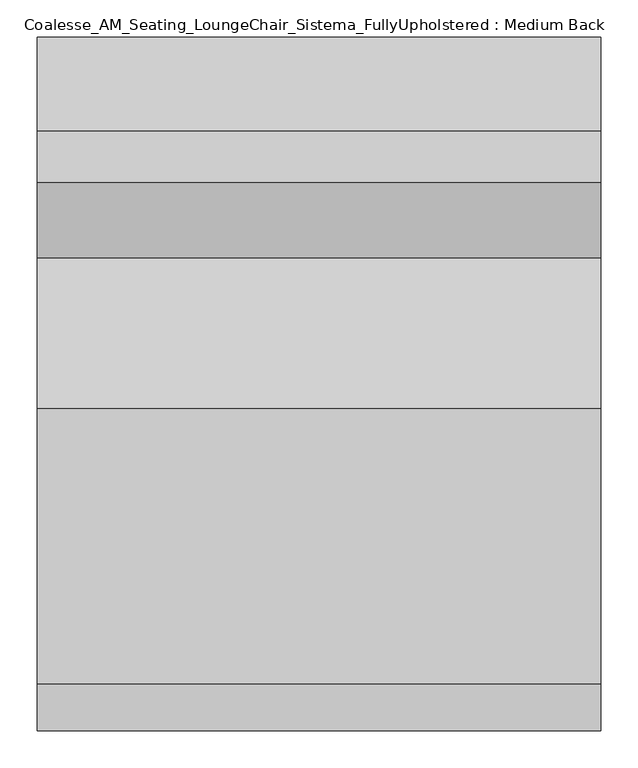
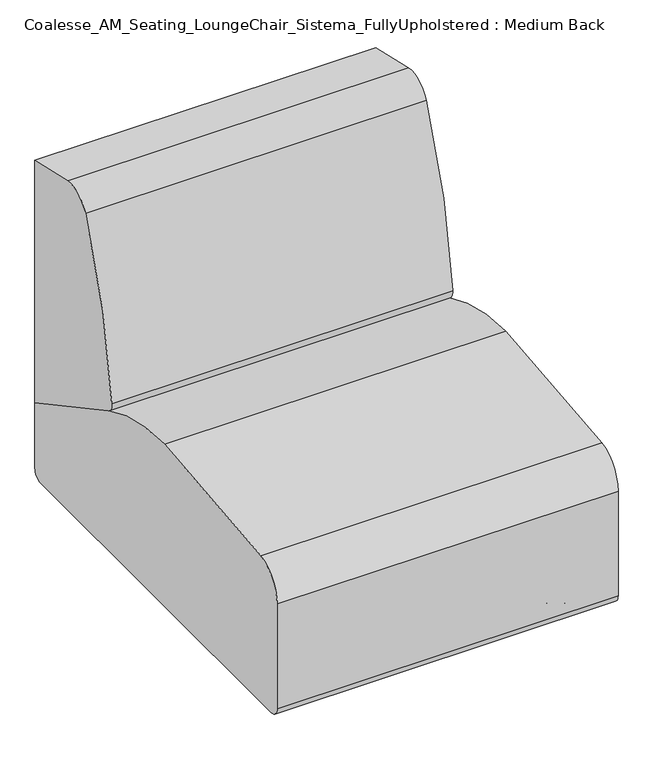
"""IFC4 building model written with IfcOpenShell, lengths in millimetres: furniture geometry, Coalesse_AM_Seating_LoungeChair_Sistema_FullyUpholstered : Medium Back."""

import ifcopenshell
import ifcopenshell.guid

model = None  # the IFC model being written
_history = None  # IfcOwnerHistory: only IFC2X3 demands one
_inside = {}  # id of a spatial element -> (the spatial element, [elements in it])
_under = {}  # id of a project, library or spatial element -> (it, [spatial elements below it])
_declared = {}  # id of a project -> (the project, [libraries it declares])
_typed = {}  # id of a type object -> (the type object, [elements of that type])
_made_of = {}  # id of a material, layer set ... -> (it, [elements and type objects made of it])


def new_model(schema):
    """Start an empty IFC model of exactly this schema.

    Asked for "IFC4X3", IfcOpenShell would pick the latest addendum, in which some entities
    have other attributes; the version numbers below select the first issue.
    IFC2X3 requires an IfcOwnerHistory on every rooted entity: one is made here for all.
    """
    global model, _history
    if schema == "IFC4X3":
        model = ifcopenshell.file(schema_version=(4, 3, 0, 0))
    else:
        model = ifcopenshell.file(schema=schema)
    _inside.clear()
    _under.clear()
    _declared.clear()
    _typed.clear()
    _made_of.clear()
    _history = None
    if model.schema == "IFC2X3":
        org = make("IfcOrganization", Name="unknown")
        user = make(
            "IfcPersonAndOrganization",
            ThePerson=make("IfcPerson", FamilyName="unknown"),
            TheOrganization=org,
        )
        app = make(
            "IfcApplication",
            ApplicationDeveloper=org,
            Version="unknown",
            ApplicationFullName="unknown",
            ApplicationIdentifier="unknown",
        )
        _history = make(
            "IfcOwnerHistory",
            OwningUser=user,
            OwningApplication=app,
            ChangeAction="ADDED",
            CreationDate=0,
        )
    return model


def make(cls, **values):
    """One entity of the class cls with the attributes given. An attribute that is None is left unset."""
    return model.create_entity(
        cls, **{name: value for name, value in values.items() if value is not None}
    )


def rooted(cls, **values):
    """An entity with a GlobalId (a new one), such as an element, a storey or a relation."""
    return make(cls, GlobalId=ifcopenshell.guid.new(), OwnerHistory=_history, **values)


def si_unit(unit_type, name, prefix=None):
    """IfcSIUnit, for example si_unit("LENGTHUNIT", "METRE", prefix="MILLI")."""
    return make("IfcSIUnit", UnitType=unit_type, Prefix=prefix, Name=name)


def assignment(units):
    """IfcUnitAssignment: the units of a project."""
    return None if units is None else make("IfcUnitAssignment", Units=units)


def point(xyz):
    """IfcCartesianPoint."""
    return None if xyz is None else make("IfcCartesianPoint", Coordinates=xyz)


def direction(xyz):
    """IfcDirection."""
    return None if xyz is None else make("IfcDirection", DirectionRatios=xyz)


def frame(location, z_axis=None, x_axis=None):
    """IfcAxis2Placement3D, a coordinate frame: its origin and axes. An axis left out is left unset."""
    return make(
        "IfcAxis2Placement3D",
        Location=point(location),
        Axis=direction(z_axis),
        RefDirection=direction(x_axis),
    )


def frame_2d(location, x_axis=None):
    """IfcAxis2Placement2D, a coordinate frame in the plane: its origin and x axis."""
    return make(
        "IfcAxis2Placement2D", Location=point(location), RefDirection=direction(x_axis)
    )


def origin():
    """The frame at (0, 0, 0) with its axes left unset."""
    return frame((0.0, 0.0, 0.0))


def place(relative_to, where):
    """IfcLocalPlacement: puts the frame where relative to a parent placement (None: the world)."""
    return make(
        "IfcLocalPlacement", PlacementRelTo=relative_to, RelativePlacement=where
    )


def context(
    kind, dimensions, precision=None, world=None, true_north=None, identifier=None
):
    """IfcGeometricRepresentationContext, for example the 3D "Model" context."""
    return make(
        "IfcGeometricRepresentationContext",
        ContextIdentifier=identifier,
        ContextType=kind,
        CoordinateSpaceDimension=dimensions,
        Precision=precision,
        WorldCoordinateSystem=world,
        TrueNorth=true_north,
    )


def project(units=None, contexts=None):
    """IfcProject with its units and contexts."""
    return rooted(
        "IfcProject",
        Name="project",
        RepresentationContexts=contexts,
        UnitsInContext=assignment(units),
    )


def spatial(cls, under=None, at=None, **own):
    """A site, building, storey or space (cls), placed at a placement, below another one or the project."""
    s = rooted(cls, ObjectPlacement=at, **own)
    if under is not None:
        _under.setdefault(under.id(), (under, []))[1].append(s)
    return s


def polyline(points):
    """IfcPolyline through the points."""
    return make("IfcPolyline", Points=[point(p) for p in points])


def circle_curve(where, radius):
    """IfcCircle in the frame where."""
    return make("IfcCircle", Position=where, Radius=radius)


def ellipse_curve(where, semi_axis1, semi_axis2):
    """IfcEllipse in the frame where."""
    return make(
        "IfcEllipse", Position=where, SemiAxis1=semi_axis1, SemiAxis2=semi_axis2
    )


def trimmed(basis, trim1, trim2, sense, master):
    """IfcTrimmedCurve: the piece of a basis curve between two trims."""
    return make(
        "IfcTrimmedCurve",
        BasisCurve=basis,
        Trim1=trim1,
        Trim2=trim2,
        SenseAgreement=sense,
        MasterRepresentation=master,
    )


def segment(curve, same_sense, transition):
    """IfcCompositeCurveSegment."""
    return make(
        "IfcCompositeCurveSegment",
        Transition=transition,
        SameSense=same_sense,
        ParentCurve=curve,
    )


def composite_curve(segments, self_intersect=None):
    """IfcCompositeCurve: segments joined end to end."""
    return make("IfcCompositeCurve", Segments=segments, SelfIntersect=self_intersect)


def outline(outer, holes=None, kind="AREA"):
    """IfcArbitraryClosedProfileDef: a profile drawn as a closed curve; with holes, ...WithVoids."""
    if holes is None:
        return make("IfcArbitraryClosedProfileDef", ProfileType=kind, OuterCurve=outer)
    return make(
        "IfcArbitraryProfileDefWithVoids",
        ProfileType=kind,
        OuterCurve=outer,
        InnerCurves=holes,
    )


def extrude(swept, where, along, depth):
    """IfcExtrudedAreaSolid: the profile swept, set in the frame where, extruded along a direction by depth."""
    return make(
        "IfcExtrudedAreaSolid",
        SweptArea=swept,
        Position=where,
        ExtrudedDirection=direction(along),
        Depth=depth,
    )


def shape(context_of_items, identifier, shape_type, items):
    """IfcShapeRepresentation: the items that make up one representation, for example the "Body"."""
    return make(
        "IfcShapeRepresentation",
        ContextOfItems=context_of_items,
        RepresentationIdentifier=identifier,
        RepresentationType=shape_type,
        Items=items,
    )


def source(mapping_origin, context_of_items, identifier, shape_type, items):
    """IfcRepresentationMap: a shape defined once, which mapped items show again and again."""
    return make(
        "IfcRepresentationMap",
        MappingOrigin=mapping_origin,
        MappedRepresentation=shape(context_of_items, identifier, shape_type, items),
    )


def transform(
    local_origin,
    x_axis=None,
    y_axis=None,
    z_axis=None,
    scale=None,
    scale2=None,
    scale3=None,
    uniform=True,
):
    """IfcCartesianTransformationOperator3D, or its non-uniform kind. x_axis, y_axis, z_axis: its Axis1, 2, 3."""
    if uniform:
        return make(
            "IfcCartesianTransformationOperator3D",
            Axis1=direction(x_axis),
            Axis2=direction(y_axis),
            LocalOrigin=point(local_origin),
            Scale=scale,
            Axis3=direction(z_axis),
        )
    return make(
        "IfcCartesianTransformationOperator3DnonUniform",
        Axis1=direction(x_axis),
        Axis2=direction(y_axis),
        LocalOrigin=point(local_origin),
        Scale=scale,
        Axis3=direction(z_axis),
        Scale2=scale2,
        Scale3=scale3,
    )


def mapped(mapping_source, mapping_target):
    """IfcMappedItem: shows the shape of a source again, moved by a transform."""
    return make(
        "IfcMappedItem", MappingSource=mapping_source, MappingTarget=mapping_target
    )


def made_of(thing, what):
    """Note that an element or type object is made of a material, layer set ...; save() writes the relation."""
    if what is not None:
        _made_of.setdefault(what.id(), (what, []))[1].append(thing)
    return thing


def element(
    cls,
    number,
    at=None,
    inside=None,
    cuts=None,
    type_object=None,
    material=None,
    context=None,
    identifier="Body",
    shape_type=None,
    held_by="IfcProductDefinitionShape",
    body=None,
    shapes=None,
    **own,
):
    """One element of the class cls, such as IfcWall. Its Tag is "e" and its number.

    at: its placement. inside: the storey or other place that contains it. cuts: it is an
    opening in that element (IfcRelVoidsElement). A single representation is given by context,
    identifier, shape_type and body (its items); several are given by shapes. held_by: the class
    of the entity that holds the representations. save() writes the other relations.
    """
    e = rooted(cls, Tag="e%d" % number, ObjectPlacement=at, **own)
    if body is not None:
        shapes = [shape(context, identifier, shape_type, body)]
    if shapes is not None:
        e.Representation = make(held_by, Representations=shapes)
    if inside is not None:
        _inside.setdefault(inside.id(), (inside, []))[1].append(e)
    if cuts is not None:
        rooted(
            "IfcRelVoidsElement", RelatingBuildingElement=cuts, RelatedOpeningElement=e
        )
    if type_object is not None:
        _typed.setdefault(type_object.id(), (type_object, []))[1].append(e)
    return made_of(e, material)


def aggregate(whole, parts):
    """IfcRelAggregates: a whole, such as a stair, and the parts it consists of."""
    return rooted("IfcRelAggregates", RelatingObject=whole, RelatedObjects=parts)


def save(model, path):
    """Write the relations noted so far, then the file.

    IfcRelAggregates (storeys below a building ...), IfcRelContainedInSpatialStructure (elements
    in a storey), IfcRelDefinesByType, IfcRelAssociatesMaterial and IfcRelDeclares: one each for
    every whole, place, type object, material and project.
    """
    for whole, parts in _under.values():
        aggregate(whole, parts)
    for where, things in _inside.values():
        rooted(
            "IfcRelContainedInSpatialStructure",
            RelatedElements=things,
            RelatingStructure=where,
        )
    for kind, things in _typed.values():
        rooted("IfcRelDefinesByType", RelatedObjects=things, RelatingType=kind)
    for what, things in _made_of.values():
        rooted("IfcRelAssociatesMaterial", RelatedObjects=things, RelatingMaterial=what)
    for by, libraries in _declared.values():
        rooted("IfcRelDeclares", RelatingContext=by, RelatedDefinitions=libraries)
    model.write(path)


def plane_surface(at):
    """IfcPlane: the flat surface through the origin of the frame at, square to its z axis."""
    return make("IfcPlane", Position=at)


def cylinder_surface(at, radius):
    """IfcCylindricalSurface: all points at the distance radius from the z axis of the frame at."""
    return make("IfcCylindricalSurface", Position=at, Radius=radius)


def revolved_surface(curve, axis_point, axis_direction):
    """IfcSurfaceOfRevolution: the curve turned about the line through axis_point along axis_direction."""
    return make(
        "IfcSurfaceOfRevolution",
        SweptCurve=make("IfcArbitraryOpenProfileDef", ProfileType="CURVE", Curve=curve),
        AxisPosition=make("IfcAxis1Placement", Location=point(axis_point), Axis=direction(axis_direction)),
    )


def advanced_brep(points, edges, surfaces, faces):
    """IfcAdvancedBrep: a solid bounded by faces that lie on surfaces and meet in shared edges.

    An edge is (start, end): straight between two places in points (the first is 0);
    or (start, end, curve); or (start, end, curve, False) where it runs against its curve.
    A face is (place in surfaces, loops), or (place, loops, False) where it looks against
    its surface's normal. A loop lists edges by number (the first is 1), with a minus sign
    where the edge is run from its end to its start. The first loop is the outer one.
    """
    corners = [point(p) for p in points]
    vertices = [make("IfcVertexPoint", VertexGeometry=c) for c in corners]
    made = []
    for start, end, *more in edges:
        made.append(
            make(
                "IfcEdgeCurve",
                EdgeStart=vertices[start],
                EdgeEnd=vertices[end],
                EdgeGeometry=more[0] if more else make("IfcPolyline", Points=[corners[start], corners[end]]),
                SameSense=more[1] if len(more) > 1 else True,
            )
        )
    hull = []
    for where, loops, *sense in faces:
        bounds = []
        for j, loop in enumerate(loops):
            ring = [make("IfcOrientedEdge", EdgeElement=made[abs(k) - 1], Orientation=k > 0) for k in loop]
            bounds.append(
                make(
                    "IfcFaceOuterBound" if j == 0 else "IfcFaceBound",
                    Bound=make("IfcEdgeLoop", EdgeList=ring),
                    Orientation=True,
                )
            )
        hull.append(make("IfcAdvancedFace", Bounds=bounds, FaceSurface=surfaces[where], SameSense=sense[0] if sense else True))
    return make("IfcAdvancedBrep", Outer=make("IfcClosedShell", CfsFaces=hull))


def coalesse_am_seating_loungechair_sistema_fullyupholstered_694a9448(model_context):
    return source(origin(), model_context, "Body", "SolidModel", [
        advanced_brep(
        [(269.1276038, -379.5141881, 32.0111214), (305.4012134, -379.5141881, 32.0111214), (305.4012134, -379.5141881, 16.5557542), (269.1276038, -379.5141881, 16.5557542), (306.6948939, -379.5141881, 14.0167632), (267.8339233, -379.5141881, 14.0167632), (311.0668802, -379.5141881, 10.8824382), (263.4619371, -379.5141881, 10.8824382), (312.2530965, -379.5141881, 8.4680454), (262.2757207, -379.5141881, 8.4680454), (312.2530965, -379.5141881, 3.1081764), (262.2757207, -379.5141881, 3.1081764), (308.6567219, -379.5141881, 0.0), (265.8720953, -379.5141881, 0.0), (287.2644086, -379.5141881, 0.0), (287.2644086, -379.5141881, 34.4679682), (294.3791876, -379.5141881, 34.4679682), (280.1496296, -379.5141881, 34.4679682), (294.3791876, -379.5141881, 32.0111214), (280.1496296, -379.5141881, 32.0111214)],
        [
            (0, 1, circle_curve(frame((287.2644086, -379.5141881, 32.0111214), z_axis=(0.0, 0.0, -1.0), x_axis=(1.0, 0.0, 0.0)), 18.1368048)),
            (1, 2),
            (2, 3, circle_curve(frame((287.2644086, -379.5141881, 16.5557542), z_axis=(0.0, 0.0, 1.0), x_axis=(1.0, 0.0, 0.0)), 18.1368048)),
            (3, 0),
            (1, 0, circle_curve(frame((287.2644086, -379.5141881, 32.0111214), z_axis=(0.0, 0.0, -1.0), x_axis=(1.0, 0.0, 0.0)), 18.1368048)),
            (3, 2, circle_curve(frame((287.2644086, -379.5141881, 16.5557542), z_axis=(0.0, 0.0, 1.0), x_axis=(1.0, 0.0, 0.0)), 18.1368048)),
            (2, 4),
            (4, 5, circle_curve(frame((287.2644086, -379.5141881, 14.0167632), z_axis=(0.0, 0.0, 1.0), x_axis=(1.0, 0.0, 0.0)), 19.4304853)),
            (5, 3),
            (5, 4, circle_curve(frame((287.2644086, -379.5141881, 14.0167632), z_axis=(0.0, 0.0, 1.0), x_axis=(1.0, 0.0, 0.0)), 19.4304853)),
            (4, 6, circle_curve(frame((264.7129236, -379.5141881, -49.1591113), z_axis=(0.0, 1.0, 0.0), x_axis=(-1.0, 0.0, 0.0)), 75.8529957)),
            (6, 7, circle_curve(frame((287.2644086, -379.5141881, 10.8824382), z_axis=(0.0, 0.0, 1.0), x_axis=(1.0, 0.0, 0.0)), 23.8024715)),
            (7, 5, circle_curve(frame((309.8158936, -379.5141881, -49.1591113), z_axis=(0.0, 1.0, 0.0), x_axis=(1.0, 0.0, 0.0)), 75.8529957)),
            (7, 6, circle_curve(frame((287.2644086, -379.5141881, 10.8824382), z_axis=(0.0, 0.0, 1.0), x_axis=(1.0, 0.0, 0.0)), 23.8024715)),
            (6, 8, circle_curve(frame((309.2028933, -379.5141881, 8.4680454), z_axis=(0.0, 1.0, 0.0), x_axis=(-1.0, 0.0, 0.0)), 3.0502032)),
            (8, 9, circle_curve(frame((287.2644086, -379.5141881, 8.4680454), z_axis=(0.0, 0.0, 1.0), x_axis=(1.0, 0.0, 0.0)), 24.9886879)),
            (9, 7, circle_curve(frame((265.3259239, -379.5141881, 8.4680454), z_axis=(0.0, 1.0, 0.0), x_axis=(1.0, 0.0, 0.0)), 3.0502032)),
            (9, 8, circle_curve(frame((287.2644086, -379.5141881, 8.4680454), z_axis=(0.0, 0.0, 1.0), x_axis=(1.0, 0.0, 0.0)), 24.9886879)),
            (8, 10),
            (10, 11, circle_curve(frame((287.2644086, -379.5141881, 3.1081764), z_axis=(0.0, 0.0, 1.0), x_axis=(1.0, 0.0, 0.0)), 24.9886879)),
            (11, 9),
            (11, 10, circle_curve(frame((287.2644086, -379.5141881, 3.1081764), z_axis=(0.0, 0.0, 1.0), x_axis=(1.0, 0.0, 0.0)), 24.9886879)),
            (10, 12, circle_curve(frame((308.6567219, -379.5141881, 3.634715), z_axis=(0.0, 1.0, 0.0), x_axis=(-1.0, 0.0, 0.0)), 3.634715)),
            (12, 13, circle_curve(frame((287.2644086, -379.5141881, 0.0), z_axis=(0.0, 0.0, 1.0), x_axis=(1.0, 0.0, 0.0)), 21.3923133)),
            (13, 11, circle_curve(frame((265.8720953, -379.5141881, 3.634715), z_axis=(0.0, 1.0, 0.0), x_axis=(1.0, 0.0, 0.0)), 3.634715)),
            (13, 12, circle_curve(frame((287.2644086, -379.5141881, 0.0), z_axis=(0.0, 0.0, 1.0), x_axis=(1.0, 0.0, 0.0)), 21.3923133)),
            (12, 14),
            (14, 13),
            (15, 16),
            (16, 17, circle_curve(frame((287.2644086, -379.5141881, 34.4679682), z_axis=(0.0, 0.0, 1.0), x_axis=(1.0, 0.0, 0.0)), 7.114779)),
            (17, 15),
            (17, 16, circle_curve(frame((287.2644086, -379.5141881, 34.4679682), z_axis=(0.0, 0.0, 1.0), x_axis=(1.0, 0.0, 0.0)), 7.114779)),
            (16, 18),
            (18, 19, circle_curve(frame((287.2644086, -379.5141881, 32.0111214), z_axis=(0.0, 0.0, 1.0), x_axis=(1.0, 0.0, 0.0)), 7.114779)),
            (19, 17),
            (19, 18, circle_curve(frame((287.2644086, -379.5141881, 32.0111214), z_axis=(0.0, 0.0, 1.0), x_axis=(1.0, 0.0, 0.0)), 7.114779)),
            (18, 1),
            (0, 19),
        ],
        [
            cylinder_surface(frame((287.2644086, -379.5141881, 22.0491407), z_axis=(0.0, 0.0, 1.0), x_axis=(1.0, 0.0, 0.0)), 18.1368048),
            revolved_surface(polyline([(306.6948939, -379.5141881, 14.0167632), (305.4012134, -379.5141881, 16.5557542)]), (287.2644086, -379.5141881, 22.0491407), (0.0, 0.0, 1.0)),
            revolved_surface(trimmed(ellipse_curve(frame((264.7129236, -379.5141881, -49.1591113), z_axis=(0.0, -1.0, 0.0), x_axis=(-1.0, 0.0, 0.0)), 75.8529957, 75.8529957), [point((311.0668802, -379.5141881, 10.8824382))], [point((306.6948939, -379.5141881, 14.0167632))], True, "CARTESIAN"), (287.2644086, -379.5141881, 22.0491407), (0.0, 0.0, 1.0)),
            revolved_surface(trimmed(ellipse_curve(frame((309.2028933, -379.5141881, 8.4680454), z_axis=(0.0, -1.0, 0.0), x_axis=(-1.0, 0.0, 0.0)), 3.0502032, 3.0502032), [point((312.2530965, -379.5141881, 8.4680454))], [point((311.0668802, -379.5141881, 10.8824382))], True, "CARTESIAN"), (287.2644086, -379.5141881, 22.0491407), (0.0, 0.0, 1.0)),
            cylinder_surface(frame((287.2644086, -379.5141881, 22.0491407), z_axis=(0.0, 0.0, 1.0), x_axis=(1.0, 0.0, 0.0)), 24.9886879),
            revolved_surface(trimmed(ellipse_curve(frame((308.6567219, -379.5141881, 3.634715), z_axis=(0.0, -1.0, 0.0), x_axis=(-1.0, 0.0, 0.0)), 3.634715, 3.634715), [point((308.6567219, -379.5141881, 0.0))], [point((312.2530965, -379.5141881, 3.1081764))], True, "CARTESIAN"), (287.2644086, -379.5141881, 22.0491407), (0.0, 0.0, 1.0)),
            plane_surface(frame((287.2644086, -379.5141881, 0.0), z_axis=(0.0, 0.0, -1.0), x_axis=(1.0, 0.0, 0.0))),
            plane_surface(frame((287.2644086, -379.5141881, 34.4679682), z_axis=(0.0, 0.0, 1.0), x_axis=(1.0, 0.0, 0.0))),
            cylinder_surface(frame((287.2644086, -379.5141881, 22.0491407), z_axis=(0.0, 0.0, 1.0), x_axis=(1.0, 0.0, 0.0)), 7.114779),
            plane_surface(frame((287.2644086, -379.5141881, 32.0111214), z_axis=(0.0, 0.0, 1.0), x_axis=(1.0, 0.0, 0.0))),
        ],
        [
            (0, [[1, 2, 3, 4]]),
            (0, [[5, -4, 6, -2]]),
            (1, [[-3, 7, 8, 9]]),
            (1, [[-6, -9, 10, -7]]),
            (2, [[-8, 11, 12, 13]]),
            (2, [[-10, -13, 14, -11]]),
            (3, [[-12, 15, 16, 17]]),
            (3, [[-14, -17, 18, -15]]),
            (4, [[-16, 19, 20, 21]]),
            (4, [[-18, -21, 22, -19]]),
            (5, [[-20, 23, 24, 25]]),
            (5, [[-22, -25, 26, -23]]),
            (6, [[-24, 27, 28]]),
            (6, [[-26, -28, -27]]),
            (7, [[29, 30, 31]]),
            (7, [[-31, 32, -29]]),
            (8, [[-30, 33, 34, 35]]),
            (8, [[-32, -35, 36, -33]]),
            (9, [[-34, 37, -1, 38]]),
            (9, [[-36, -38, -5, -37]]),
        ],
    ),
        advanced_brep(
        [(-269.1276038, -379.5141881, 16.5557542), (-305.4012134, -379.5141881, 16.5557542), (-305.4012134, -379.5141881, 32.0111214), (-269.1276038, -379.5141881, 32.0111214), (-267.8339233, -379.5141881, 14.0167632), (-306.6948939, -379.5141881, 14.0167632), (-263.4619371, -379.5141881, 10.8824382), (-311.0668802, -379.5141881, 10.8824382), (-262.2757207, -379.5141881, 8.4680454), (-312.2530965, -379.5141881, 8.4680454), (-262.2757207, -379.5141881, 3.1081764), (-312.2530965, -379.5141881, 3.1081764), (-265.8720953, -379.5141881, 0.0), (-308.6567219, -379.5141881, 0.0), (-287.2644086, -379.5141881, 0.0), (-280.1496296, -379.5141881, 34.4679682), (-294.3791876, -379.5141881, 34.4679682), (-287.2644086, -379.5141881, 34.4679682), (-280.1496296, -379.5141881, 32.0111214), (-294.3791876, -379.5141881, 32.0111214)],
        [
            (0, 1, circle_curve(frame((-287.2644086, -379.5141881, 16.5557542), z_axis=(0.0, 0.0, 1.0), x_axis=(-1.0, 0.0, 0.0)), 18.1368048)),
            (1, 2),
            (2, 3, circle_curve(frame((-287.2644086, -379.5141881, 32.0111214), z_axis=(0.0, 0.0, -1.0), x_axis=(-1.0, 0.0, 0.0)), 18.1368048)),
            (3, 0),
            (1, 0, circle_curve(frame((-287.2644086, -379.5141881, 16.5557542), z_axis=(0.0, 0.0, 1.0), x_axis=(-1.0, 0.0, 0.0)), 18.1368048)),
            (3, 2, circle_curve(frame((-287.2644086, -379.5141881, 32.0111214), z_axis=(0.0, 0.0, -1.0), x_axis=(-1.0, 0.0, 0.0)), 18.1368048)),
            (4, 5, circle_curve(frame((-287.2644086, -379.5141881, 14.0167632), z_axis=(0.0, 0.0, 1.0), x_axis=(-1.0, 0.0, 0.0)), 19.4304853)),
            (5, 1),
            (0, 4),
            (5, 4, circle_curve(frame((-287.2644086, -379.5141881, 14.0167632), z_axis=(0.0, 0.0, 1.0), x_axis=(-1.0, 0.0, 0.0)), 19.4304853)),
            (6, 7, circle_curve(frame((-287.2644086, -379.5141881, 10.8824382), z_axis=(0.0, 0.0, 1.0), x_axis=(-1.0, 0.0, 0.0)), 23.8024715)),
            (7, 5, circle_curve(frame((-264.7129236, -379.5141881, -49.1591113), z_axis=(0.0, 1.0, 0.0), x_axis=(1.0, 0.0, 0.0)), 75.8529957)),
            (4, 6, circle_curve(frame((-309.8158936, -379.5141881, -49.1591113), z_axis=(0.0, 1.0, 0.0), x_axis=(-1.0, 0.0, 0.0)), 75.8529957)),
            (7, 6, circle_curve(frame((-287.2644086, -379.5141881, 10.8824382), z_axis=(0.0, 0.0, 1.0), x_axis=(-1.0, 0.0, 0.0)), 23.8024715)),
            (8, 9, circle_curve(frame((-287.2644086, -379.5141881, 8.4680454), z_axis=(0.0, 0.0, 1.0), x_axis=(-1.0, 0.0, 0.0)), 24.9886879)),
            (9, 7, circle_curve(frame((-309.2028933, -379.5141881, 8.4680454), z_axis=(0.0, 1.0, 0.0), x_axis=(1.0, 0.0, 0.0)), 3.0502032)),
            (6, 8, circle_curve(frame((-265.3259239, -379.5141881, 8.4680454), z_axis=(0.0, 1.0, 0.0), x_axis=(-1.0, 0.0, 0.0)), 3.0502032)),
            (9, 8, circle_curve(frame((-287.2644086, -379.5141881, 8.4680454), z_axis=(0.0, 0.0, 1.0), x_axis=(-1.0, 0.0, 0.0)), 24.9886879)),
            (10, 11, circle_curve(frame((-287.2644086, -379.5141881, 3.1081764), z_axis=(0.0, 0.0, 1.0), x_axis=(-1.0, 0.0, 0.0)), 24.9886879)),
            (11, 9),
            (8, 10),
            (11, 10, circle_curve(frame((-287.2644086, -379.5141881, 3.1081764), z_axis=(0.0, 0.0, 1.0), x_axis=(-1.0, 0.0, 0.0)), 24.9886879)),
            (12, 13, circle_curve(frame((-287.2644086, -379.5141881, 0.0), z_axis=(0.0, 0.0, 1.0), x_axis=(-1.0, 0.0, 0.0)), 21.3923133)),
            (13, 11, circle_curve(frame((-308.6567219, -379.5141881, 3.634715), z_axis=(0.0, 1.0, 0.0), x_axis=(1.0, 0.0, 0.0)), 3.634715)),
            (10, 12, circle_curve(frame((-265.8720953, -379.5141881, 3.634715), z_axis=(0.0, 1.0, 0.0), x_axis=(-1.0, 0.0, 0.0)), 3.634715)),
            (13, 12, circle_curve(frame((-287.2644086, -379.5141881, 0.0), z_axis=(0.0, 0.0, 1.0), x_axis=(-1.0, 0.0, 0.0)), 21.3923133)),
            (14, 13),
            (12, 14),
            (15, 16, circle_curve(frame((-287.2644086, -379.5141881, 34.4679682), z_axis=(0.0, 0.0, 1.0), x_axis=(-1.0, 0.0, 0.0)), 7.114779)),
            (16, 17),
            (17, 15),
            (16, 15, circle_curve(frame((-287.2644086, -379.5141881, 34.4679682), z_axis=(0.0, 0.0, 1.0), x_axis=(-1.0, 0.0, 0.0)), 7.114779)),
            (18, 19, circle_curve(frame((-287.2644086, -379.5141881, 32.0111214), z_axis=(0.0, 0.0, 1.0), x_axis=(-1.0, 0.0, 0.0)), 7.114779)),
            (19, 16),
            (15, 18),
            (19, 18, circle_curve(frame((-287.2644086, -379.5141881, 32.0111214), z_axis=(0.0, 0.0, 1.0), x_axis=(-1.0, 0.0, 0.0)), 7.114779)),
            (2, 19),
            (18, 3),
        ],
        [
            cylinder_surface(frame((-287.2644086, -379.5141881, 22.0491407), z_axis=(0.0, 0.0, -1.0), x_axis=(-1.0, 0.0, 0.0)), 18.1368048),
            revolved_surface(polyline([(-305.4012134, -379.5141881, 16.5557542), (-306.6948939, -379.5141881, 14.0167632)]), (-287.2644086, -379.5141881, 22.0491407), (0.0, 0.0, -1.0)),
            revolved_surface(trimmed(ellipse_curve(frame((-264.7129236, -379.5141881, -49.1591113), z_axis=(0.0, -1.0, 0.0), x_axis=(1.0, 0.0, 0.0)), 75.8529957, 75.8529957), [point((-306.6948939, -379.5141881, 14.0167632))], [point((-311.0668802, -379.5141881, 10.8824382))], True, "CARTESIAN"), (-287.2644086, -379.5141881, 22.0491407), (0.0, 0.0, -1.0)),
            revolved_surface(trimmed(ellipse_curve(frame((-309.2028933, -379.5141881, 8.4680454), z_axis=(0.0, -1.0, 0.0), x_axis=(1.0, 0.0, 0.0)), 3.0502032, 3.0502032), [point((-311.0668802, -379.5141881, 10.8824382))], [point((-312.2530965, -379.5141881, 8.4680454))], True, "CARTESIAN"), (-287.2644086, -379.5141881, 22.0491407), (0.0, 0.0, -1.0)),
            cylinder_surface(frame((-287.2644086, -379.5141881, 22.0491407), z_axis=(0.0, 0.0, -1.0), x_axis=(-1.0, 0.0, 0.0)), 24.9886879),
            revolved_surface(trimmed(ellipse_curve(frame((-308.6567219, -379.5141881, 3.634715), z_axis=(0.0, -1.0, 0.0), x_axis=(1.0, 0.0, 0.0)), 3.634715, 3.634715), [point((-312.2530965, -379.5141881, 3.1081764))], [point((-308.6567219, -379.5141881, 0.0))], True, "CARTESIAN"), (-287.2644086, -379.5141881, 22.0491407), (0.0, 0.0, -1.0)),
            plane_surface(frame((-287.2644086, -379.5141881, 0.0), z_axis=(0.0, 0.0, -1.0), x_axis=(-1.0, 0.0, 0.0))),
            plane_surface(frame((-287.2644086, -379.5141881, 34.4679682), z_axis=(0.0, 0.0, 1.0), x_axis=(-1.0, 0.0, 0.0))),
            cylinder_surface(frame((-287.2644086, -379.5141881, 22.0491407), z_axis=(0.0, 0.0, -1.0), x_axis=(-1.0, 0.0, 0.0)), 7.114779),
            plane_surface(frame((-287.2644086, -379.5141881, 32.0111214), z_axis=(0.0, 0.0, 1.0), x_axis=(-1.0, 0.0, 0.0))),
        ],
        [
            (0, [[1, 2, 3, 4]]),
            (0, [[5, -4, 6, -2]]),
            (1, [[7, 8, -1, 9]]),
            (1, [[10, -9, -5, -8]]),
            (2, [[11, 12, -7, 13]]),
            (2, [[14, -13, -10, -12]]),
            (3, [[15, 16, -11, 17]]),
            (3, [[18, -17, -14, -16]]),
            (4, [[19, 20, -15, 21]]),
            (4, [[22, -21, -18, -20]]),
            (5, [[23, 24, -19, 25]]),
            (5, [[26, -25, -22, -24]]),
            (6, [[27, -23, 28]]),
            (6, [[-28, -26, -27]]),
            (7, [[29, 30, 31]]),
            (7, [[32, -31, -30]]),
            (8, [[33, 34, -29, 35]]),
            (8, [[36, -35, -32, -34]]),
            (9, [[-3, 37, -33, 38]]),
            (9, [[-6, -38, -36, -37]]),
        ],
    ),
        extrude(outline(composite_curve([segment(polyline([(464.6438301, 774.6651718), (464.6438301, 208.8788212), (183.8457951, 360.6719742)]), True, "CONTINUOUS"), segment(trimmed(circle_curve(frame_2d((195.9245701, 383.0161724)), 25.4), [point((183.8457951, 360.6719742))], [point((170.6161698, 385.1713698))], False, "CARTESIAN"), True, "CONTINUOUS"), segment(trimmed(circle_curve(frame_2d((1327.5544182, 286.6495247)), 1161.1256023), [point((170.6161698, 385.1713698))], [point((271.1088001, 768.4537592))], False, "CARTESIAN"), True, "CONTINUOUS"), segment(trimmed(circle_curve(frame_2d((326.5730192, 743.158661)), 60.96), [point((271.1088001, 768.4537592))], [point((339.9143278, 802.6408523))], False, "CARTESIAN"), True, "CONTINUOUS"), segment(polyline([(339.9143278, 802.6408523), (464.6438301, 774.6651718)]), True, "CONTINUOUS")], self_intersect=False)), frame((-374.8034773, 0.0, 0.0), z_axis=(1.0, 0.0, 0.0), x_axis=(0.0, 1.0, 0.0)), (0.0, 0.0, 1.0), 752.2863161),
        extrude(outline(composite_curve([segment(trimmed(circle_curve(frame_2d((-438.9184381, 56.7777814)), 22.352), [point((-438.9184381, 34.4257814))], [point((-461.2704381, 56.7777814))], False, "CARTESIAN"), True, "CONTINUOUS"), segment(polyline([(-461.2704381, 56.7777814), (-461.2704381, 301.4421993)]), True, "CONTINUOUS"), segment(trimmed(circle_curve(frame_2d((-385.0704381, 301.4421993)), 76.2), [point((-461.2704381, 301.4421993))], [point((-398.9277015, 376.3716077))], False, "CARTESIAN"), True, "CONTINUOUS"), segment(trimmed(circle_curve(frame_2d((2.2103559, -1792.6740646)), 2205.8265729), [point((-398.9277015, 376.3716077))], [point((-31.1968175, 412.8995185))], False, "CARTESIAN"), True, "CONTINUOUS"), segment(trimmed(circle_curve(frame_2d((-24.5128424, -28.3829182)), 441.333054), [point((-31.1968175, 412.8995185))], [point((184.5757008, 360.2774035))], False, "CARTESIAN"), True, "CONTINUOUS"), segment(polyline([(184.5757008, 360.2774035), (464.6438301, 208.8788212), (464.6438301, 56.7429806)]), True, "CONTINUOUS"), segment(trimmed(circle_curve(frame_2d((442.3266309, 56.7429806)), 22.3171991), [point((464.6438301, 56.7429806))], [point((442.3266309, 34.4257814))], False, "CARTESIAN"), True, "CONTINUOUS"), segment(polyline([(442.3266309, 34.4257814), (-438.9184381, 34.4257814)]), True, "CONTINUOUS")], self_intersect=False)), frame((-374.8034773, 0.0, 0.0), z_axis=(1.0, 0.0, 0.0), x_axis=(0.0, 1.0, 0.0)), (0.0, 0.0, 1.0), 752.2863161),
    ])


if __name__ == "__main__":
    model = new_model("IFC4")
    model_context = context("Model", 3, world=origin())
    ifc_project = project(units=[si_unit("LENGTHUNIT", "METRE", prefix="MILLI")], contexts=[model_context])
    site = spatial("IfcSite", under=ifc_project)
    building = spatial("IfcBuilding", under=site)
    placement = place(None, origin())
    coalesse_am_seating_loungechair_sistema_fullyupholstered_shape = coalesse_am_seating_loungechair_sistema_fullyupholstered_694a9448(model_context)
    element("IfcFurniture", 1, ObjectType="Coalesse_AM_Seating_LoungeChair_Sistema_FullyUpholstered : Medium Back", at=placement, inside=building, context=model_context, shape_type="MappedRepresentation", body=[
        mapped(coalesse_am_seating_loungechair_sistema_fullyupholstered_shape, transform((0.0, 0.0, 0.0), x_axis=(1.0, 0.0, 0.0), y_axis=(0.0, 1.0, 0.0), z_axis=(0.0, 0.0, 1.0))),
    ])
    save(model, "model.ifc")
